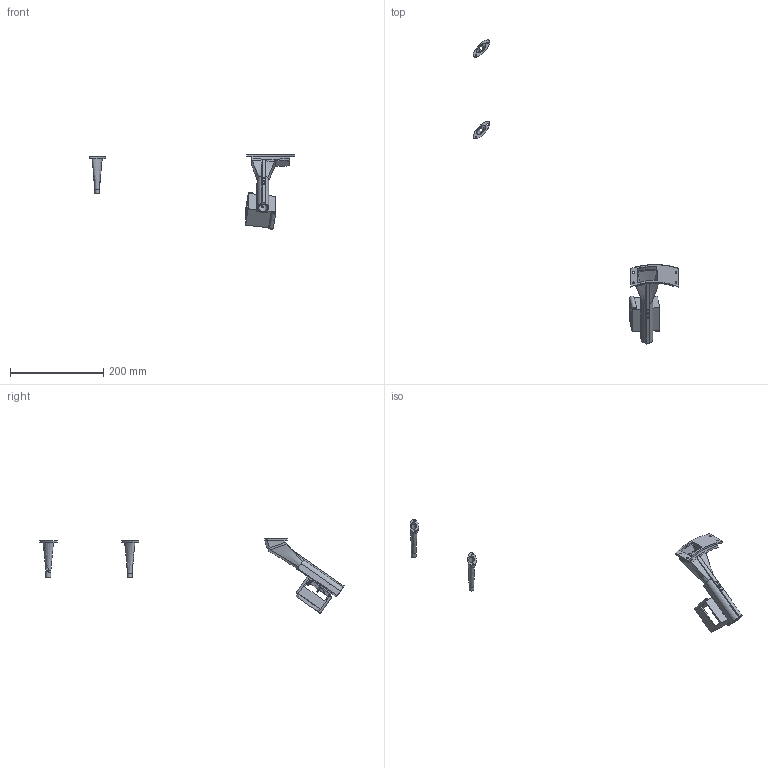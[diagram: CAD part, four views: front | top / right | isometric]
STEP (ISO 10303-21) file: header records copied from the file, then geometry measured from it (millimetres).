
FILE_DESCRIPTION(/* description */ (''),/* implementation_level */ '2;1');
FILE_NAME(/* name */ 'C:/gcode/3d-printer/dillion-case-feeder/650-case-and-bullet-feeder-20Nov18.step',/* time_stamp */ '2018-11-20T07:18:37+13:00',/* author */ ('thing.thing'),/* organization */ (''),/* preprocessor_version */ 'ST-DEVELOPER v17.2',/* originating_system */ 'Autodesk Translation Framework v7.6.0.251',/* authorisation */ '');
FILE_SCHEMA (('AUTOMOTIVE_DESIGN { 1 0 10303 214 3 1 1 }'));
Length unit declared in the file: millimetre
Products named in the file (3): Assembly 1; Base; mk1d-base-motor-case-collator
Assembly tree (2 placements, depth 2):
  Assembly 1
    Base
    mk1d-base-motor-case-collator
Bounding box: 441.04 x 652.17 x 159.99 mm (x, y, z)
Volume: 140134 mm3; surface area: 85657.4 mm2
Topology: 4 solids, 6 shells, 187 faces, 495 edges, 331 vertices
Faces by surface type: plane 88, cylinder 58, bspline 33, cone 4, torus 4
Full cylindrical faces by diameter (mm): 2 x3, 2.5 x4, 3.2 x2, 3.799 x2, 3.8 x15, 4 x4, 5 x1, 5.2 x1, 6 x1, 7 x1, 8.2 x1, 10.2 x1, 10.5 x1, 11 x1, 18.7 x1
Entity records: 7513 total; most frequent: CARTESIAN_POINT 2737, ORIENTED_EDGE 992, DIRECTION 903, EDGE_CURVE 496, AXIS2_PLACEMENT_3D 342, VERTEX_POINT 331, EDGE_LOOP 250, LINE 219
